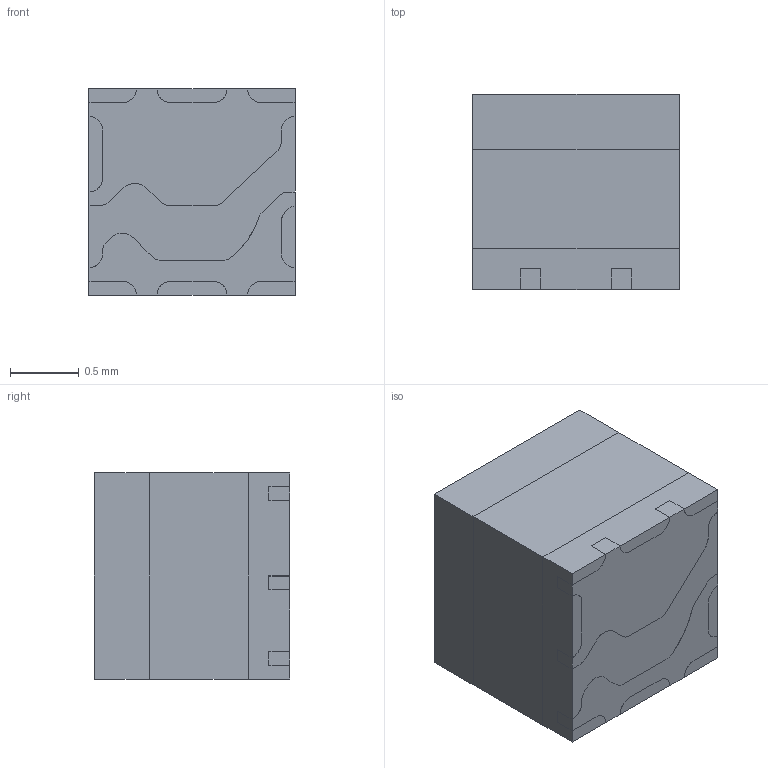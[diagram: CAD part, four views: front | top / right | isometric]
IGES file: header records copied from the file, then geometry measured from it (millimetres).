
Start section: SolidWorks IGES file using analytic representation for surfaces
Global section: file name: C:\Users\user\Desktop\XYY\1-车灯产品3D图汇总\E1515-OK\LYR\光学模型\LYR.IGS; native system: SolidWorks 2022; preprocessor: SolidWorks 2022; author: user; date: 250512.190120; units: millimetre
Bounding box: 1.5 x 1.42 x 1.5 mm (x, y, z)
Surface area: 28.1 mm2 (no closed solid volume)
Topology: 0 solids, 0 shells, 191 faces, 2062 edges, 2594 vertices
Faces by surface type: bspline 105, revolution 86
